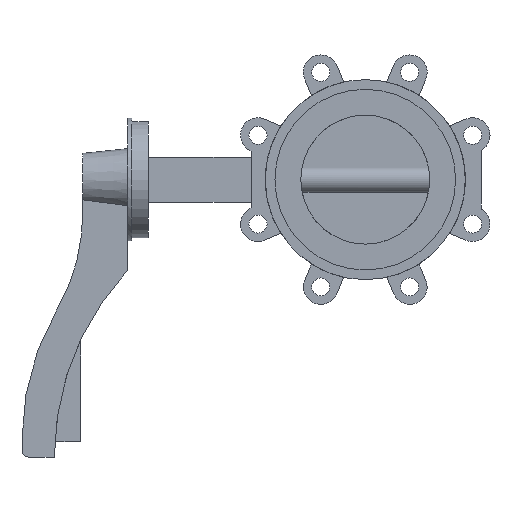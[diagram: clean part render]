
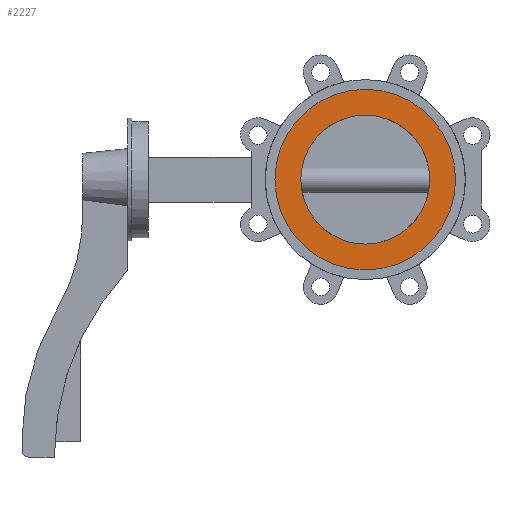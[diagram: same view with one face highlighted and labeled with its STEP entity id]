
A CAD part, left-side view. The second image highlights one B-rep face of the part: STEP entity #2227.
In plain terms, the highlighted planar face has unit normal (-1, 0, 0).
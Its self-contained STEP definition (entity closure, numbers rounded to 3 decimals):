
#318 = CARTESIAN_POINT ( 'NONE',  ( -28., 0., 0. ) ) ;
#334 = FACE_BOUND ( 'NONE', #2659, .T. ) ;
#413 = AXIS2_PLACEMENT_3D ( 'NONE', #3258, #4479, #751 ) ;
#484 = DIRECTION ( 'NONE',  ( 1., 0., 0. ) ) ;
#696 = DIRECTION ( 'NONE',  ( 0., 0., -1. ) ) ;
#697 = PLANE ( 'NONE',  #413 ) ;
#698 = CIRCLE ( 'NONE', #3326, 50. ) ;
#720 = ORIENTED_EDGE ( 'NONE', *, *, #4289, .F. ) ;
#722 = ORIENTED_EDGE ( 'NONE', *, *, #3597, .T. ) ;
#751 = DIRECTION ( 'NONE',  ( 0., 0., -1. ) ) ;
#841 = DIRECTION ( 'NONE',  ( 1., 0., 0. ) ) ;
#998 = CARTESIAN_POINT ( 'NONE',  ( -28., 0., -70. ) ) ;
#1201 = ORIENTED_EDGE ( 'NONE', *, *, #4308, .T. ) ;
#1318 = AXIS2_PLACEMENT_3D ( 'NONE', #2073, #841, #3419 ) ;
#1529 = FACE_OUTER_BOUND ( 'NONE', #3790, .T. ) ;
#1711 = CARTESIAN_POINT ( 'NONE',  ( -28., 0., 0. ) ) ;
#2018 = AXIS2_PLACEMENT_3D ( 'NONE', #318, #5272, #4493 ) ;
#2073 = CARTESIAN_POINT ( 'NONE',  ( -28., 0., 0. ) ) ;
#2227 = ADVANCED_FACE ( 'NONE', ( #1529, #334 ), #697, .F. ) ;
#2342 = DIRECTION ( 'NONE',  ( 1., 0., 0. ) ) ;
#2544 = VERTEX_POINT ( 'NONE', #3641 ) ;
#2659 = EDGE_LOOP ( 'NONE', ( #1201, #722 ) ) ;
#2811 = CARTESIAN_POINT ( 'NONE',  ( -28., 0., -50. ) ) ;
#2877 = CARTESIAN_POINT ( 'NONE',  ( -28., 0., 50. ) ) ;
#2901 = VERTEX_POINT ( 'NONE', #2877 ) ;
#3120 = VERTEX_POINT ( 'NONE', #998 ) ;
#3251 = CIRCLE ( 'NONE', #4029, 50. ) ;
#3258 = CARTESIAN_POINT ( 'NONE',  ( -28., 0., 0. ) ) ;
#3326 = AXIS2_PLACEMENT_3D ( 'NONE', #1711, #484, #3721 ) ;
#3419 = DIRECTION ( 'NONE',  ( 0., 0., -1. ) ) ;
#3496 = CIRCLE ( 'NONE', #2018, 70. ) ;
#3597 = EDGE_CURVE ( 'NONE', #5152, #2901, #3251, .T. ) ;
#3641 = CARTESIAN_POINT ( 'NONE',  ( -28., 0., 70. ) ) ;
#3658 = ORIENTED_EDGE ( 'NONE', *, *, #4409, .F. ) ;
#3675 = CIRCLE ( 'NONE', #1318, 70. ) ;
#3721 = DIRECTION ( 'NONE',  ( 0., 0., -1. ) ) ;
#3790 = EDGE_LOOP ( 'NONE', ( #720, #3658 ) ) ;
#3969 = CARTESIAN_POINT ( 'NONE',  ( -28., 0., 0. ) ) ;
#4029 = AXIS2_PLACEMENT_3D ( 'NONE', #3969, #2342, #696 ) ;
#4289 = EDGE_CURVE ( 'NONE', #2544, #3120, #3675, .T. ) ;
#4308 = EDGE_CURVE ( 'NONE', #2901, #5152, #698, .T. ) ;
#4409 = EDGE_CURVE ( 'NONE', #3120, #2544, #3496, .T. ) ;
#4479 = DIRECTION ( 'NONE',  ( 1., 0., 0. ) ) ;
#4493 = DIRECTION ( 'NONE',  ( 0., 0., -1. ) ) ;
#5152 = VERTEX_POINT ( 'NONE', #2811 ) ;
#5272 = DIRECTION ( 'NONE',  ( 1., 0., 0. ) ) ;
